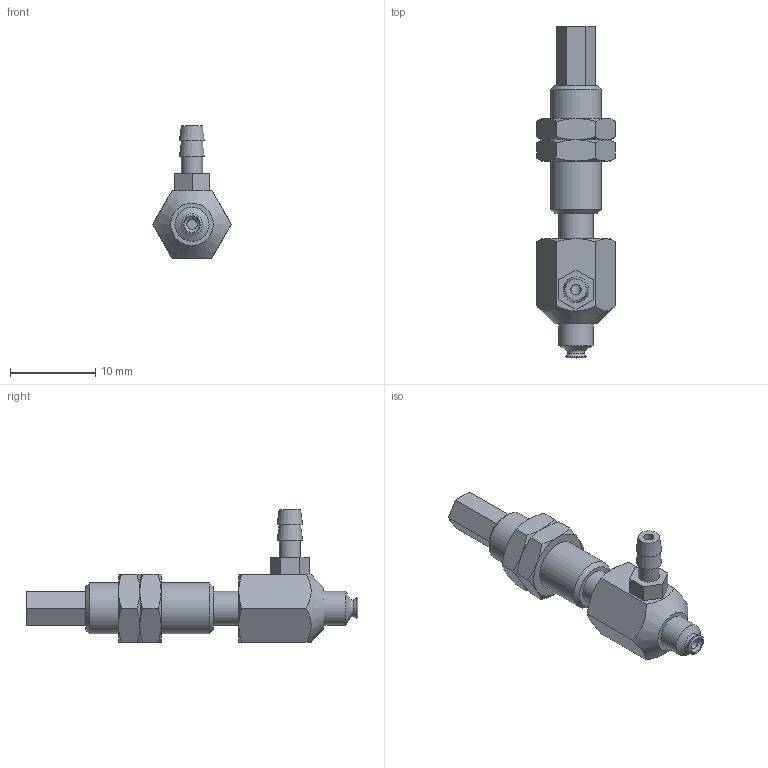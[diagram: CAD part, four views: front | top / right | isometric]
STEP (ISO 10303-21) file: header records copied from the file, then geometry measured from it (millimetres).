
FILE_DESCRIPTION(('STEP AP203'),'1');
FILE_NAME('-T.stp','2025-04-09T05:11:05',(' '),(' '),'Spatial InterOp 3D',' ',' ');
FILE_SCHEMA(('CONFIG_CONTROL_DESIGN'));
Length unit declared in the file: millimetre
Products named in the file (7): BNABPFYS-2A-3-※-T; CONNECTOR-2A-3; Nut-2A-3-s; NAPFTS-2A-3-FBODY; NAPFTS-2A-3-MBODY; BPFG-2A-※; T (2)
Assembly tree (7 placements, depth 2):
  BNABPFYS-2A-3-※-T
    CONNECTOR-2A-3
    Nut-2A-3-s  x2
    NAPFTS-2A-3-FBODY
    NAPFTS-2A-3-MBODY
    BPFG-2A-※
    T (2)
Bounding box: 9.24 x 39 x 15.6 mm (x, y, z)
Volume: 1287.1 mm3; surface area: 2003.8 mm2
Topology: 7 solids, 7 shells, 144 faces, 304 edges, 184 vertices
Faces by surface type: plane 68, cone 50, cylinder 18, torus 7, bspline 1
Full cylindrical faces by diameter (mm): 1.2 x3, 2 x2, 2.459 x2, 2.5 x1, 3 x4, 4 x3, 5.188 x2, 6 x1
Entity records: 3557 total; most frequent: CARTESIAN_POINT 830, DIRECTION 500, ORIENTED_EDGE 414, AXIS2_PLACEMENT_3D 213, EDGE_CURVE 207, EDGE_LOOP 184, VERTEX_POINT 149, FACE_OUTER_BOUND 146
